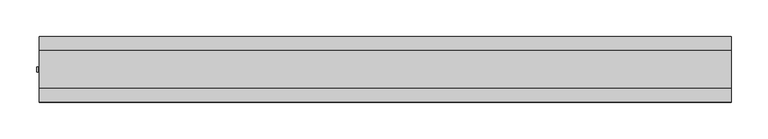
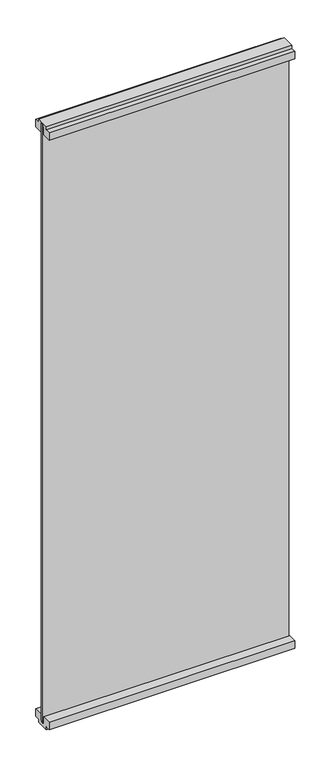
"""IFC4 building model written with IfcOpenShell, lengths in millimetres: furniture geometry, Allsteel - Aspect - Panel - 1-Way LH (11-25-24) : Allsteel - Aspect - Panel - 1-Way LH (11-25-24)."""

from ifc_helpers import new_model, si_unit, frame, origin, place, context, project, spatial, polyline, outline, extrude, source, transform, mapped, element, save


def furniture_57ef4947(model_context):
    return source(origin(), model_context, "Body", "SweptSolid", [
        extrude(outline(polyline([(939.00625, -3.175), (0.0, -3.175), (0.0, 3.175), (939.00625, 3.175), (939.00625, -3.175)])), frame((0.0, 0.0, 12.7), z_axis=(0.0, 0.0, 1.0), x_axis=(1.0, 0.0, 0.0)), (0.0, 0.0, 1.0), 2413.0),
        extrude(outline(polyline([(-25.4, 2438.4), (25.4, 2438.4), (25.4, 2425.7), (44.45, 2425.7), (44.45, 2395.5375), (9.525, 2395.5375), (9.525, 2425.7), (-9.525, 2425.7), (-9.525, 2395.5375), (-44.45, 2395.5375), (-44.45, 2425.7), (-25.4, 2425.7), (-25.4, 2438.4)])), frame((0.0, 0.0, 0.0), z_axis=(1.0, 0.0, 0.0), x_axis=(0.0, 1.0, 0.0)), (0.0, 0.0, 1.0), 939.00625),
        extrude(outline(polyline([(25.4, 0.0), (-25.4, 0.0), (-25.4, 12.7), (-44.45, 12.7), (-44.45, 42.8625), (-9.525, 42.8625), (-9.525, 12.7), (9.525, 12.7), (9.525, 42.8625), (44.45, 42.8625), (44.45, 12.7), (25.4, 12.7), (25.4, 0.0)])), frame((0.0, 0.0, 0.0), z_axis=(1.0, 0.0, 0.0), x_axis=(0.0, 1.0, 0.0)), (0.0, 0.0, 1.0), 939.00625),
        extrude(outline(polyline([(-1.2847077, 2.9978967), (-1.2847077, -3.3521033), (-3.3167077, -3.3521033), (-3.3167077, 2.9978967), (-1.2847077, 2.9978967)])), frame((0.0, 0.0, 22.225), z_axis=(0.0, 0.0, 1.0), x_axis=(1.0, 0.0, 0.0)), (0.0, 0.0, 1.0), 2416.175),
    ])


if __name__ == "__main__":
    model = new_model("IFC4")
    model_context = context("Model", 3, world=origin())
    ifc_project = project(units=[si_unit("LENGTHUNIT", "METRE", prefix="MILLI")], contexts=[model_context])
    site = spatial("IfcSite", under=ifc_project)
    building = spatial("IfcBuilding", under=site)
    placement = place(None, origin())
    furniture_shape = furniture_57ef4947(model_context)
    element("IfcFurniture", 1, ObjectType="Allsteel - Aspect - Panel - 1-Way LH (11-25-24) : Allsteel - Aspect - Panel - 1-Way LH (11-25-24)", at=placement, inside=building, context=model_context, shape_type="MappedRepresentation", body=[
        mapped(furniture_shape, transform((0.0, 0.0, 0.0), x_axis=(1.0, 0.0, 0.0), y_axis=(0.0, 1.0, 0.0), z_axis=(0.0, 0.0, 1.0))),
    ])
    save(model, "model.ifc")
